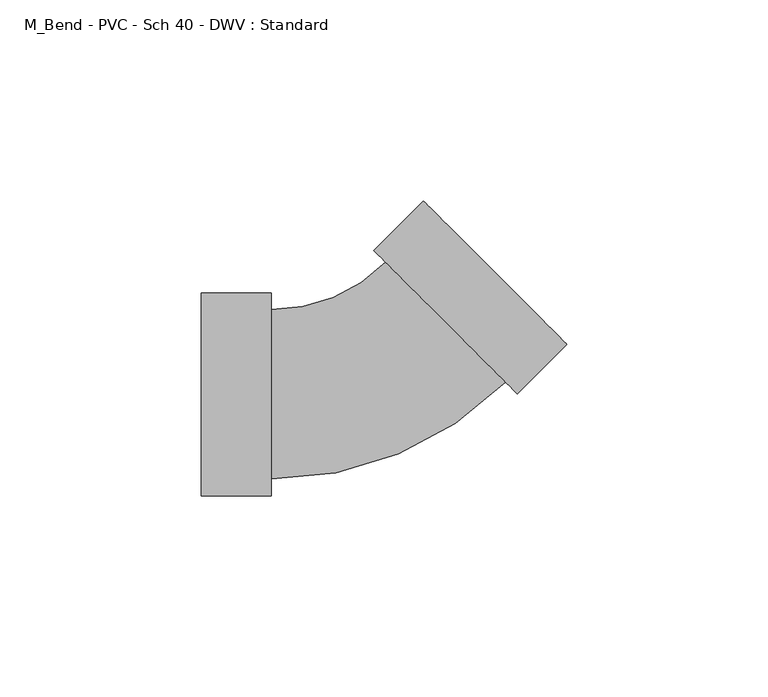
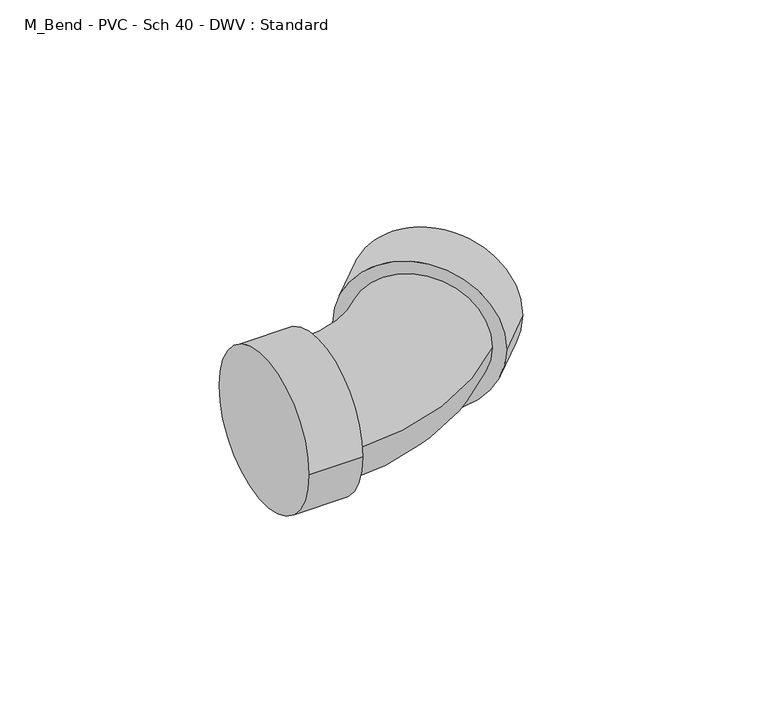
"""IFC4 building model written with IfcOpenShell, lengths in millimetres: pipe fitting geometry, M_Bend - PVC - Sch 40 - DWV : Standard."""

from ifc_helpers import new_model, si_unit, point, frame, origin, place, context, project, spatial, circle_curve, ellipse_curve, trimmed, source, transform, mapped, element, save
from ifc_brep_helpers import plane_surface, cylinder_surface, revolved_surface, advanced_brep


def m_bend_pvc_sch_40_dwv_standard_35448a73(model_context):
    return source(origin(), model_context, "Body", "AdvancedBrep", [
        advanced_brep(
        [(-42.8498, -25.2349, 0.0), (-42.8498, 25.2349, 0.0), (-25.4, -25.2349, 0.0), (-25.4, 25.2349, 0.0), (-25.4, -21.082, 0.0), (-25.4, 21.082, 0.0), (3.0532871, 32.8677374, 0.0), (32.8677374, 3.0532871, 0.0), (35.8042812, 0.1167433, 0.0), (0.1167433, 35.8042812, 0.0), (48.1431531, 12.4556152, 0.0), (12.4556152, 48.1431531, 0.0)],
        [
            (0, 1, circle_curve(frame((-42.8498, 0.0, 0.0), z_axis=(-1.0, 0.0, 0.0), x_axis=(0.0, 1.0, 0.0)), 25.2349)),
            (1, 0, circle_curve(frame((-42.8498, 0.0, 0.0), z_axis=(-1.0, 0.0, 0.0), x_axis=(0.0, 1.0, 0.0)), 25.2349)),
            (2, 3, circle_curve(frame((-25.4, 0.0, 0.0), z_axis=(1.0, 0.0, 0.0), x_axis=(0.0, 1.0, 0.0)), 25.2349)),
            (3, 2, circle_curve(frame((-25.4, 0.0, 0.0), z_axis=(1.0, 0.0, 0.0), x_axis=(0.0, 1.0, 0.0)), 25.2349)),
            (4, 5, circle_curve(frame((-25.4, 0.0, 0.0), z_axis=(-1.0, 0.0, 0.0), x_axis=(0.0, 1.0, 0.0)), 21.082)),
            (5, 4, circle_curve(frame((-25.4, 0.0, 0.0), z_axis=(-1.0, 0.0, 0.0), x_axis=(0.0, 1.0, 0.0)), 21.082)),
            (0, 2),
            (3, 1),
            (6, 5, circle_curve(frame((-25.4, 61.3210245, 0.0), z_axis=(0.0, 0.0, -1.0), x_axis=(0.0, -1.0, 0.0)), 40.2390245)),
            (4, 7, circle_curve(frame((-25.4, 61.3210245, 0.0), z_axis=(0.0, 0.0, 1.0), x_axis=(0.0, -1.0, 0.0)), 82.4030245)),
            (7, 6, circle_curve(frame((17.9605122, 17.9605122, 0.0), z_axis=(-0.7071067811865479, -0.7071067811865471, 0.0), x_axis=(-0.7071067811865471, 0.7071067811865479, 0.0)), 21.082)),
            (6, 7, circle_curve(frame((17.9605122, 17.9605122, 0.0), z_axis=(-0.7071067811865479, -0.7071067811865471, 0.0), x_axis=(-0.7071067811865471, 0.7071067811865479, 0.0)), 21.082)),
            (8, 9, circle_curve(frame((17.9605122, 17.9605122, 0.0), z_axis=(-0.7071067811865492, -0.7071067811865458, 0.0), x_axis=(-0.7071067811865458, 0.7071067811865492, 0.0)), 25.2349)),
            (9, 8, circle_curve(frame((17.9605122, 17.9605122, 0.0), z_axis=(-0.7071067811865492, -0.7071067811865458, 0.0), x_axis=(-0.7071067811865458, 0.7071067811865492, 0.0)), 25.2349)),
            (10, 11, circle_curve(frame((30.2993842, 30.2993842, 0.0), z_axis=(0.7071067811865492, 0.7071067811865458, 0.0), x_axis=(-0.7071067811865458, 0.7071067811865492, 0.0)), 25.2349)),
            (11, 10, circle_curve(frame((30.2993842, 30.2993842, 0.0), z_axis=(0.7071067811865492, 0.7071067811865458, 0.0), x_axis=(-0.7071067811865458, 0.7071067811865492, 0.0)), 25.2349)),
            (8, 10),
            (11, 9),
        ],
        [
            plane_surface(frame((-42.8498, 0.0, 0.0), z_axis=(-1.0, 0.0, 0.0), x_axis=(0.0, 0.0, 1.0))),
            plane_surface(frame((-25.4, 0.0, 0.0), z_axis=(1.0, 0.0, 0.0), x_axis=(0.0, 0.0, 1.0))),
            cylinder_surface(frame((-42.8498, 0.0, 0.0), z_axis=(-1.0, 0.0, 0.0), x_axis=(0.0, 1.0, 0.0)), 25.2349),
            revolved_surface(trimmed(ellipse_curve(frame((-25.4, 0.0, 0.0), z_axis=(-1.0, 0.0, 0.0), x_axis=(0.0, 1.0, 0.0)), 21.082, 21.082), [point((-25.4, -21.082, 0.0))], [point((-25.4, 21.082, 0.0))], True, "CARTESIAN"), (-25.4, 61.3210245, 0.0), (0.0, 0.0, 1.0)),
            revolved_surface(trimmed(ellipse_curve(frame((-25.4, 0.0, 0.0), z_axis=(-1.0, 0.0, 0.0), x_axis=(0.0, 1.0, 0.0)), 21.082, 21.082), [point((-25.4, 21.082, 0.0))], [point((-25.4, -21.082, 0.0))], True, "CARTESIAN"), (-25.4, 61.3210245, 0.0), (0.0, 0.0, 1.0)),
            plane_surface(frame((17.9605122, 17.9605122, 0.0), z_axis=(-0.7071067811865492, -0.7071067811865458, 0.0), x_axis=(0.0, 0.0, 1.0))),
            plane_surface(frame((30.2993842, 30.2993842, 0.0), z_axis=(0.7071067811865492, 0.7071067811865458, 0.0), x_axis=(0.0, 0.0, 1.0))),
            cylinder_surface(frame((17.9605122, 17.9605122, 0.0), z_axis=(-0.7071067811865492, -0.7071067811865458, 0.0), x_axis=(-0.7071067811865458, 0.7071067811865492, 0.0)), 25.2349),
        ],
        [
            (0, [[1, 2]]),
            (1, [[3, 4], [5, 6]]),
            (2, [[-1, 7, -4, 8]]),
            (2, [[-2, -8, -3, -7]]),
            (3, [[9, -5, 10, 11]]),
            (4, [[-9, 12, -10, -6]]),
            (5, [[13, 14], [-11, -12]]),
            (6, [[15, 16]]),
            (7, [[-13, 17, -16, 18]]),
            (7, [[-14, -18, -15, -17]]),
        ],
    ),
    ])


if __name__ == "__main__":
    model = new_model("IFC4")
    model_context = context("Model", 3, world=origin())
    ifc_project = project(units=[si_unit("LENGTHUNIT", "METRE", prefix="MILLI")], contexts=[model_context])
    site = spatial("IfcSite", under=ifc_project)
    building = spatial("IfcBuilding", under=site)
    placement = place(None, origin())
    m_bend_pvc_sch_40_dwv_standard_shape = m_bend_pvc_sch_40_dwv_standard_35448a73(model_context)
    element("IfcPipeFitting", 1, ObjectType="M_Bend - PVC - Sch 40 - DWV : Standard", at=placement, inside=building, context=model_context, shape_type="MappedRepresentation", body=[
        mapped(m_bend_pvc_sch_40_dwv_standard_shape, transform((0.0, 0.0, 0.0), x_axis=(1.0, 0.0, 0.0), y_axis=(0.0, 1.0, 0.0), z_axis=(0.0, 0.0, 1.0))),
    ])
    save(model, "model.ifc")
